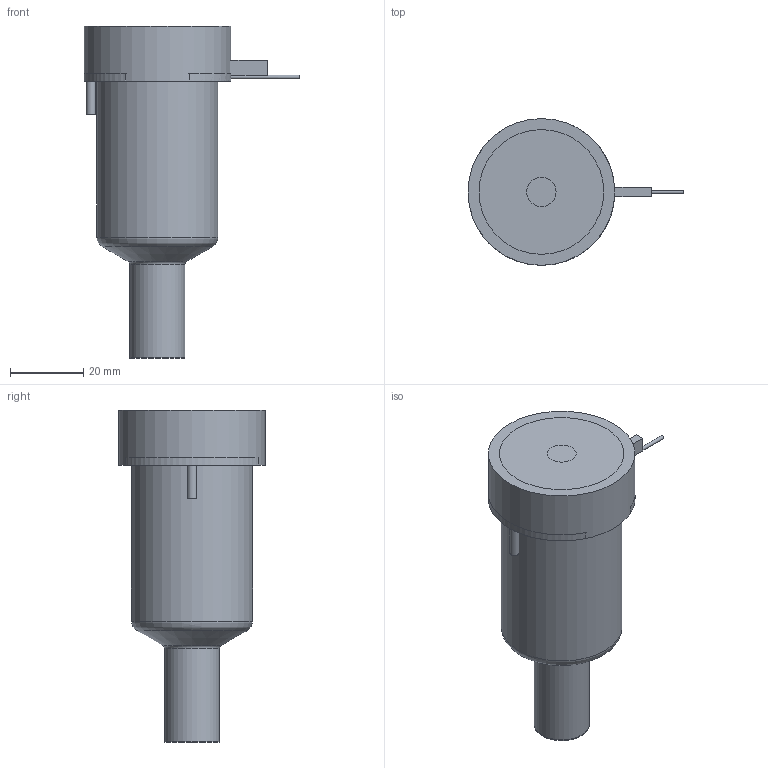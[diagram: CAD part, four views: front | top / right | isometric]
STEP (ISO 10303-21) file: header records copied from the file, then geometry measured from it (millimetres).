
FILE_DESCRIPTION(/* description */ (''),/* implementation_level */ '2;1');
FILE_NAME(/* name */ 'BXYCN19055N3F_200C_a',/* time_stamp */ '2016-02-18T14:08:56+13:00',/* author */ (''),/* organization */ (''),/* preprocessor_version */ 'ST-DEVELOPER v9',/* originating_system */ 'UGS - NX 4.0',/* authorisation */ '');
FILE_SCHEMA (('CONFIG_CONTROL_DESIGN'));
Length unit declared in the file: millimetre
Products named in the file (1): matt4A4Bpkth
Bounding box: 58.85 x 40 x 90.47 mm (x, y, z)
Volume: 112178.4 mm3; surface area: 21343.7 mm2
Topology: 2 solids, 2 shells, 66 faces, 148 edges, 96 vertices
Faces by surface type: plane 31, cylinder 21, torus 7, cone 5, bspline 1, sphere 1
Full cylindrical faces by diameter (mm): 1 x2, 2.5 x2, 7 x1, 8 x1, 14.61 x1, 14.995 x2, 18.3 x1, 28.6 x1, 33 x1, 40 x1
Entity records: 1929 total; most frequent: CARTESIAN_POINT 483, DIRECTION 297, ORIENTED_EDGE 232, AXIS2_PLACEMENT_3D 127, EDGE_CURVE 116, EDGE_LOOP 102, VERTEX_POINT 88, ADVANCED_FACE 66
